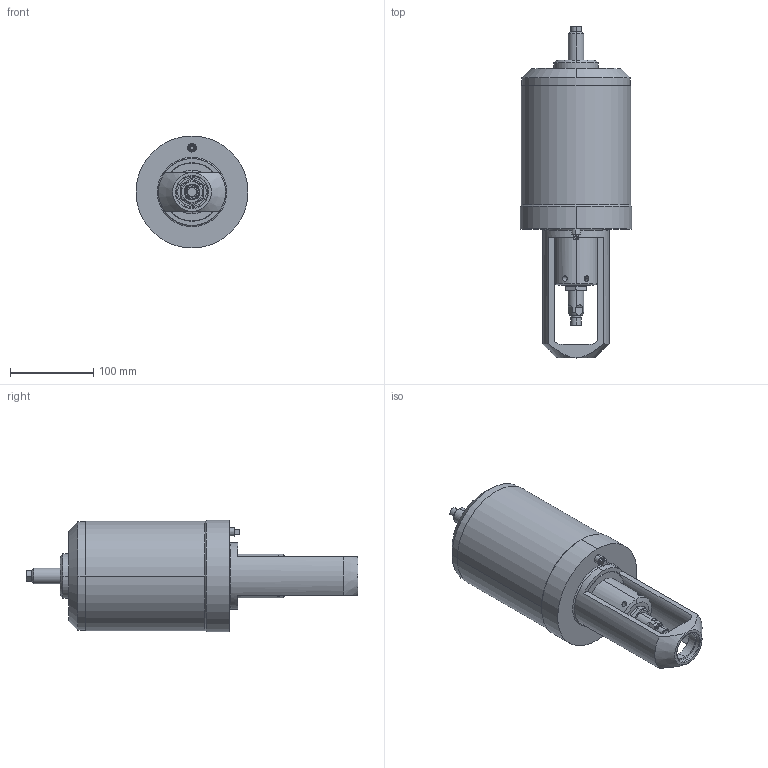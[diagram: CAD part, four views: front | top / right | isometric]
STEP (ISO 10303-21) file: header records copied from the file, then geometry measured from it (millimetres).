
FILE_DESCRIPTION (( 'STEP AP203' ), '1' );
FILE_NAME ('5in air to lower relief.STEP', '2010-08-30T19:35:08', ( 'kburns' ), ( 'Microsoft' ), 'SwSTEP 2.0', 'SolidWorks 2009', '' );
FILE_SCHEMA (( 'CONFIG_CONTROL_DESIGN' ));
Length unit declared in the file: millimetre
Products named in the file (1): 5in air to lower relief
Bounding box: 134.32 x 398.14 x 134.32 mm (x, y, z)
Volume: 2895912.7 mm3; surface area: 161884.6 mm2
Topology: 1 solids, 2 shells, 166 faces, 401 edges, 257 vertices
Faces by surface type: cylinder 63, plane 58, cone 37, bspline 8
Entity records: 6217 total; most frequent: CARTESIAN_POINT 2261, DIRECTION 828, ORIENTED_EDGE 794, EDGE_CURVE 397, AXIS2_PLACEMENT_3D 330, VERTEX_POINT 257, EDGE_LOOP 196, CIRCLE 171
